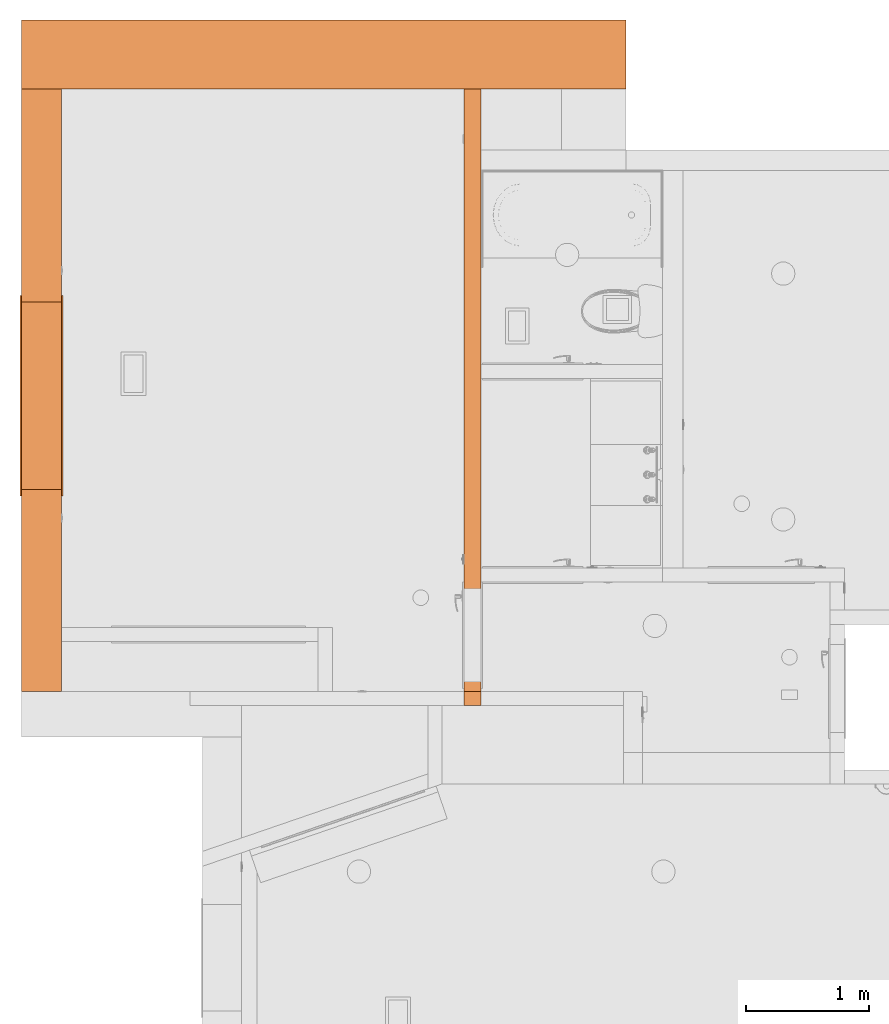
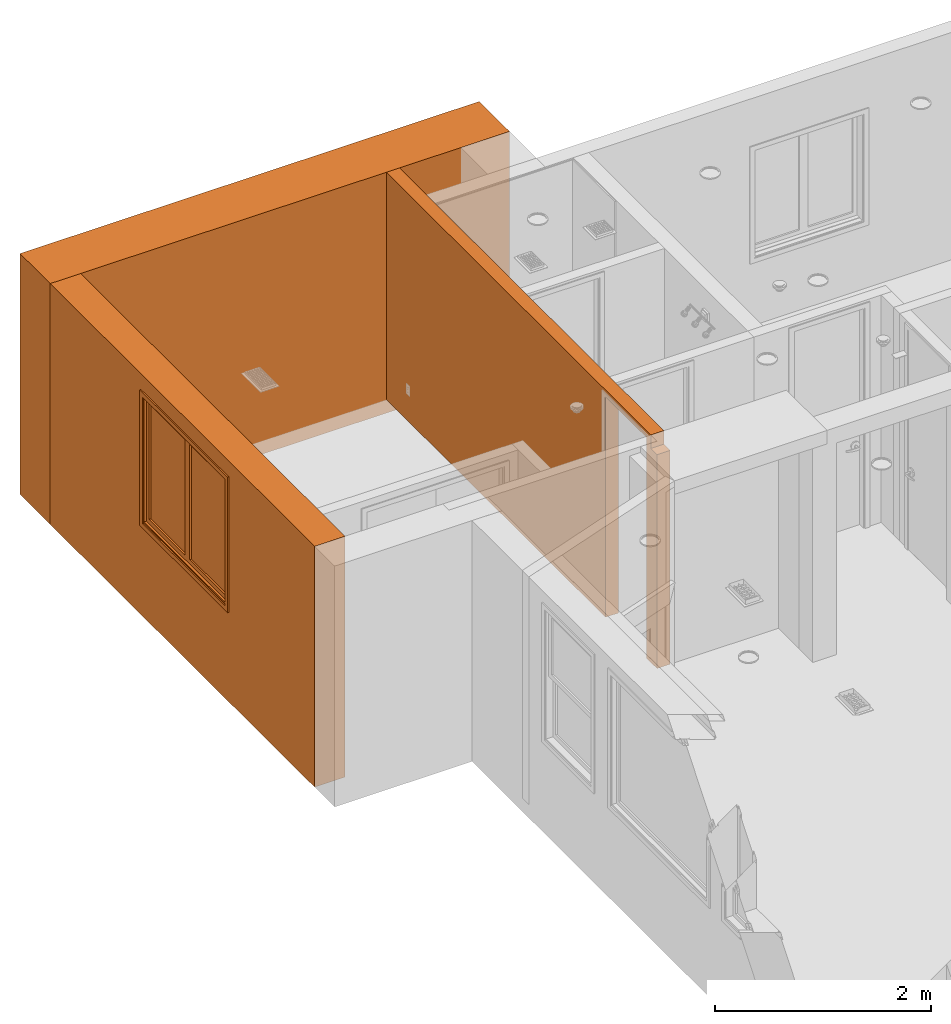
# One storey, part 44 of 48: 4 proxies.
"""IFC2X3 building model written with IfcOpenShell, lengths in inches."""

from ifc_helpers import new_model, entity, si_unit, converted_unit, derived_unit, money_unit, direction, frame, origin_with_axes, place, context, subcontext, project, spatial, faceted_brep, material, type_object, element, save


model = new_model("IFC2X3")

# Units and contexts
model_context = context("Model", 3, precision=0.00039370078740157, world=origin_with_axes(), true_north=direction((0.0, 1.0)))
plan_context = context("Plan", 3, precision=0.00039370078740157, world=origin_with_axes(), true_north=direction((0.0, 1.0)))
body_context = subcontext(model_context, "Body", "Model", "MODEL_VIEW")
ifc_project = project(units=[converted_unit("LENGTHUNIT", "INCH", entity("IfcPositiveLengthMeasure", 0.0254), si_unit("LENGTHUNIT", "METRE"), dimensions=[1, 0, 0, 0, 0, 0, 0]), converted_unit("AREAUNIT", "SQUARE_FOOT", entity("IfcPositiveLengthMeasure", 0.09290304), si_unit("AREAUNIT", "SQUARE_METRE"), dimensions=[2, 0, 0, 0, 0, 0, 0]), si_unit("PLANEANGLEUNIT", "RADIAN"), si_unit("SOLIDANGLEUNIT", "STERADIAN"), money_unit("USD"), converted_unit("TIMEUNIT", "Year", entity("IfcTimeMeasure", 31557600.0), si_unit("TIMEUNIT", "SECOND"), dimensions=[0, 0, 1, 0, 0, 0, 0]), si_unit("MASSUNIT", "GRAM", prefix="KILO"), si_unit("THERMODYNAMICTEMPERATUREUNIT", "DEGREE_CELSIUS"), si_unit("LUMINOUSINTENSITYUNIT", "LUMEN"), si_unit("ENERGYUNIT", "JOULE", prefix="MEGA"), derived_unit("SPECIFICHEATCAPACITYUNIT", [(si_unit("ENERGYUNIT", "JOULE"), 1), (si_unit("MASSUNIT", "GRAM", prefix="KILO"), -1), (si_unit("THERMODYNAMICTEMPERATUREUNIT", "KELVIN"), -1)])], contexts=[model_context, plan_context])

# Site, building, storey
site_placement = place(None, origin_with_axes())
site = spatial("IfcSite", under=ifc_project, at=site_placement, Name="Site", CompositionType="ELEMENT")
building_placement = place(site_placement, origin_with_axes())
building = spatial("IfcBuilding", under=site, at=building_placement, Name="Building", CompositionType="ELEMENT")
storey_placement = place(building_placement, origin_with_axes())
storey = spatial("IfcBuildingStorey", under=building, at=storey_placement, Name="First Floor", CompositionType="ELEMENT", Elevation=0.0)

# Proxies
building_element_proxy_type_1 = type_object("IfcBuildingElementProxyType", Name="W Double Sash", PredefinedType="NOTDEFINED")
proxy_1_placement = place(storey_placement, frame((-249.4999999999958, 451.4999999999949, 35.99999999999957), z_axis=(0.0, 0.0, 1.0), x_axis=(0.0, 1.0, 0.0)))
element("IfcBuildingElementProxy", 1, at=proxy_1_placement, inside=storey, type_object=building_element_proxy_type_1, Name="WD - 001", context=body_context, shape_type="Brep", body=[
    faceted_brep([(59.9999999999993, 8.249999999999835, 0.0), (59.9999999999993, 0.0, 0.0), (0.0, 0.0, 0.0), (0.0, 8.249999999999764, 0.0), (59.9999999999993, 8.249999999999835, 55.99999999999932), (59.9999999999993, 0.0, 55.99999999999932), (0.0, 0.0, 55.99999999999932), (59.49999999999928, 0.0, 0.4999999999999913), (0.5000000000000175, 0.0, 0.4999999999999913), (0.5000000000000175, 0.0, 55.49999999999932), (59.49999999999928, 0.0, 55.49999999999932), (0.0, 8.249999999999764, 55.99999999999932), (59.49999999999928, 8.249999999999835, 0.4999999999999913), (59.49999999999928, 8.249999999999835, 55.49999999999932), (0.5000000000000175, 8.249999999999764, 55.49999999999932), (0.5000000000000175, 8.249999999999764, 0.4999999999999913)], [[[0, 1, 2, 3]], [[4, 5, 1, 0]], [[1, 5, 6, 2], [7, 8, 9, 10]], [[3, 2, 6, 11]], [[0, 3, 11, 4], [12, 13, 14, 15]], [[11, 6, 5, 4]], [[15, 8, 7, 12]], [[14, 9, 8, 15]], [[13, 10, 9, 14]], [[12, 7, 10, 13]]]),
    faceted_brep([(61.99999999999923, -0.5000000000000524, -1.999999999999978), (59.9999999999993, -0.5000000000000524, 0.0), (59.9999999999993, 0.0, 0.0), (61.99999999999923, 0.0, -1.999999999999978), (61.99999999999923, -0.5000000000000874, 57.99999999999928), (59.9999999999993, -0.5000000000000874, 55.99999999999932), (59.9999999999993, 0.0, 55.99999999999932), (61.99999999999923, 0.0, 57.99999999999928)], [[[0, 1, 2, 3]], [[0, 4, 5, 1]], [[1, 5, 6, 2]], [[3, 2, 6, 7]], [[4, 0, 3, 7]], [[5, 4, 7, 6]]]),
    faceted_brep([(-1.99999999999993, -0.5000000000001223, 57.99999999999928), (0.0, -0.5000000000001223, 55.99999999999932), (0.0, 0.0, 55.99999999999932), (-1.99999999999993, 0.0, 57.99999999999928), (-1.99999999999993, -0.5000000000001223, -1.999999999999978), (0.0, -0.5000000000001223, 0.0), (0.0, 0.0, 0.0), (-1.99999999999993, 0.0, -1.999999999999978)], [[[0, 1, 2, 3]], [[0, 4, 5, 1]], [[1, 5, 6, 2]], [[3, 2, 6, 7]], [[4, 0, 3, 7]], [[5, 4, 7, 6]]]),
    faceted_brep([(-1.99999999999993, -0.5000000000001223, -1.999999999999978), (0.0, -0.5000000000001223, 0.0), (0.0, 0.0, 0.0), (-1.99999999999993, 0.0, -1.999999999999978), (61.99999999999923, -0.5000000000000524, -1.999999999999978), (59.9999999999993, -0.5000000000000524, 0.0), (59.9999999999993, 0.0, 0.0), (61.99999999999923, 0.0, -1.999999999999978)], [[[0, 1, 2, 3]], [[0, 4, 5, 1]], [[1, 5, 6, 2]], [[3, 2, 6, 7]], [[4, 0, 3, 7]], [[5, 4, 7, 6]]]),
    faceted_brep([(61.99999999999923, -0.5000000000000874, 57.99999999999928), (59.9999999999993, -0.5000000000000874, 55.99999999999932), (59.9999999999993, 0.0, 55.99999999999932), (61.99999999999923, 0.0, 57.99999999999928), (-1.99999999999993, -0.5000000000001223, 57.99999999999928), (0.0, -0.5000000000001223, 55.99999999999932), (0.0, 0.0, 55.99999999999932), (-1.99999999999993, 0.0, 57.99999999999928)], [[[0, 1, 2, 3]], [[0, 4, 5, 1]], [[1, 5, 6, 2]], [[3, 2, 6, 7]], [[4, 0, 3, 7]], [[5, 4, 7, 6]]]),
    faceted_brep([(61.99999999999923, 13.24999999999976, -2.249999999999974), (61.99999999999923, 12.74999999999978, -2.249999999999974), (59.9999999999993, 12.74999999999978, -0.2499999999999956), (59.9999999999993, 13.24999999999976, -0.2499999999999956), (61.99999999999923, 13.24999999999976, 57.99999999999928), (61.99999999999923, 12.74999999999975, 57.99999999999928), (59.9999999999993, 12.74999999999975, 55.99999999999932), (59.9999999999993, 13.24999999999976, 55.99999999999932)], [[[0, 1, 2, 3]], [[4, 5, 1, 0]], [[1, 5, 6, 2]], [[3, 2, 6, 7]], [[0, 3, 7, 4]], [[7, 6, 5, 4]]]),
    faceted_brep([(-1.99999999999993, 13.24999999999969, 57.99999999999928), (-1.99999999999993, 12.74999999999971, 57.99999999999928), (0.0, 12.74999999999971, 55.99999999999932), (0.0, 13.24999999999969, 55.99999999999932), (-1.99999999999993, 13.24999999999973, -2.249999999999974), (-1.99999999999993, 12.74999999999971, -2.249999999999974), (0.0, 12.74999999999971, -0.2499999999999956), (0.0, 13.24999999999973, -0.2499999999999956)], [[[0, 1, 2, 3]], [[4, 5, 1, 0]], [[1, 5, 6, 2]], [[3, 2, 6, 7]], [[0, 3, 7, 4]], [[7, 6, 5, 4]]]),
    faceted_brep([(-1.99999999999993, 13.24999999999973, -2.249999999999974), (-1.99999999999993, 12.74999999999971, -2.249999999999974), (0.0, 12.74999999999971, -0.2499999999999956), (0.0, 13.24999999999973, -0.2499999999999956), (61.99999999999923, 13.24999999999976, -2.249999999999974), (61.99999999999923, 12.74999999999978, -2.249999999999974), (59.9999999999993, 12.74999999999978, -0.2499999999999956), (59.9999999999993, 13.24999999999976, -0.2499999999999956)], [[[0, 1, 2, 3]], [[4, 5, 1, 0]], [[1, 5, 6, 2]], [[3, 2, 6, 7]], [[0, 3, 7, 4]], [[7, 6, 5, 4]]]),
    faceted_brep([(61.99999999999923, 13.24999999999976, 57.99999999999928), (61.99999999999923, 12.74999999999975, 57.99999999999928), (59.9999999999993, 12.74999999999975, 55.99999999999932), (59.9999999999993, 13.24999999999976, 55.99999999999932), (-1.99999999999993, 13.24999999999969, 57.99999999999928), (-1.99999999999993, 12.74999999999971, 57.99999999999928), (0.0, 12.74999999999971, 55.99999999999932), (0.0, 13.24999999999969, 55.99999999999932)], [[[0, 1, 2, 3]], [[4, 5, 1, 0]], [[1, 5, 6, 2]], [[3, 2, 6, 7]], [[0, 3, 7, 4]], [[7, 6, 5, 4]]]),
    faceted_brep([(59.50039370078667, 8.249999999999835, 0.7539370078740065), (59.9999999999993, 8.249999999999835, 0.7539370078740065), (59.9999999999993, 8.249999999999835, 55.4960629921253), (59.50039370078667, 8.249999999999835, 55.4960629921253), (59.50039370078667, 9.99999999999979, 0.7539370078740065), (59.74999999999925, 9.99999999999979, 0.7539370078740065), (59.74999999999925, 12.74999999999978, 0.7539370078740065), (59.9999999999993, 12.74999999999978, 0.7539370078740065), (59.9999999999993, 12.74999999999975, 55.4960629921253), (59.74999999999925, 12.74999999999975, 55.4960629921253), (59.74999999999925, 9.99999999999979, 55.4960629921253), (59.50039370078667, 9.99999999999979, 55.4960629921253)], [[[0, 1, 2, 3]], [[4, 5, 6, 7, 1, 0]], [[7, 8, 2, 1]], [[3, 2, 8, 9, 10, 11]], [[11, 4, 0, 3]], [[11, 10, 5, 4]], [[5, 10, 9, 6]], [[7, 6, 9, 8]]]),
    faceted_brep([(0.4996062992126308, 9.999999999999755, 55.4960629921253), (0.2500000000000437, 9.999999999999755, 55.49606299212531), (0.2500000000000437, 12.74999999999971, 55.4960629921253), (0.0, 12.74999999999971, 55.4960629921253), (0.0, 8.249999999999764, 55.4960629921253), (0.4996062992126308, 8.249999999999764, 55.4960629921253), (0.4996062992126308, 9.999999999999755, 0.7539370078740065), (0.2500000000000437, 9.999999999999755, 0.7539370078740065), (0.2500000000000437, 12.74999999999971, 0.7539370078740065), (0.0, 12.74999999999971, 0.7539370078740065), (0.0, 8.249999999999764, 0.7539370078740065), (0.4996062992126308, 8.249999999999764, 0.7539370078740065)], [[[0, 1, 2, 3, 4, 5]], [[6, 7, 1, 0]], [[7, 8, 2, 1]], [[3, 2, 8, 9]], [[3, 9, 10, 4]], [[5, 4, 10, 11]], [[11, 6, 0, 5]], [[11, 10, 9, 8, 7, 6]]]),
    faceted_brep([(59.50039370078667, 9.99999999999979, 0.7496062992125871), (59.50039370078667, 9.99999999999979, 0.7539370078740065), (59.74999999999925, 9.99999999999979, 0.7539370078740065), (59.74999999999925, 9.99999999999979, 0.4999999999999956), (0.2500000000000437, 9.999999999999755, 0.4999999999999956), (0.2500000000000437, 9.999999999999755, 0.7539370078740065), (0.4996062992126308, 9.999999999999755, 0.7539370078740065), (0.4996062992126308, 9.999999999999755, 0.7496062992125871), (30.00039370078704, 9.99999999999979, 0.7496062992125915), (59.50039370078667, 8.249999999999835, 0.7496062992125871), (59.50039370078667, 8.249999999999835, 0.7539370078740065), (59.9999999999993, 8.249999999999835, 0.7539370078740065), (59.9999999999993, 12.74999999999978, 0.7539370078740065), (59.74999999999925, 12.74999999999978, 0.7539370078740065), (59.74999999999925, 12.74999999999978, 0.4999999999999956), (0.2500000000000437, 12.74999999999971, 0.4999999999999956), (0.2500000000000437, 12.74999999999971, 0.7539370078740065), (0.0, 12.74999999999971, 0.7539370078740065), (0.0, 8.249999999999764, 0.7539370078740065), (0.4996062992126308, 8.249999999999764, 0.7539370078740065), (0.4996062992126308, 8.249999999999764, 0.7496062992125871), (30.00039370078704, 8.2499999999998, 0.7496062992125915), (0.0, 8.249999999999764, 0.0), (59.9999999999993, 8.249999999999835, 0.0), (59.9999999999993, 12.74999999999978, 0.0), (0.0, 12.74999999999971, 0.0)], [[[0, 1, 2, 3, 4, 5, 6, 7, 8]], [[1, 0, 9, 10]], [[10, 11, 12, 13, 2, 1]], [[14, 3, 2, 13]], [[3, 14, 15, 4]], [[5, 4, 15, 16]], [[17, 18, 19, 6, 5, 16]], [[19, 20, 7, 6]], [[9, 0, 8, 7, 20, 21]], [[9, 21, 20, 19, 18, 22, 23, 11, 10]], [[23, 24, 12, 11]], [[17, 16, 15, 14, 13, 12, 24, 25]], [[18, 17, 25, 22]], [[22, 25, 24, 23]]]),
    faceted_brep([(59.50039370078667, 8.249999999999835, 55.4960629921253), (59.9999999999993, 8.249999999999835, 55.4960629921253), (59.9999999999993, 8.249999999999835, 55.99999999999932), (0.0, 8.249999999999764, 55.99999999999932), (0.0, 8.249999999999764, 55.4960629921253), (0.4996062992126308, 8.249999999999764, 55.4960629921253), (0.4996062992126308, 8.249999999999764, 55.50039370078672), (30.00039370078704, 8.2499999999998, 55.50039370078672), (59.50039370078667, 8.249999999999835, 55.50039370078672), (59.50039370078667, 9.99999999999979, 55.4960629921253), (59.74999999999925, 9.99999999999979, 55.4960629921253), (59.74999999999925, 12.74999999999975, 55.4960629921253), (59.9999999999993, 12.74999999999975, 55.4960629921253), (59.9999999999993, 12.74999999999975, 55.99999999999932), (0.0, 12.74999999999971, 55.99999999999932), (0.0, 12.74999999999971, 55.4960629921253), (0.2500000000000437, 12.74999999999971, 55.4960629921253), (0.2500000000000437, 9.999999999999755, 55.49606299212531), (0.4996062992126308, 9.999999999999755, 55.4960629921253), (0.4996062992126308, 9.999999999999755, 55.50039370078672), (30.00039370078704, 9.999999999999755, 55.50039370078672), (59.50039370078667, 9.99999999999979, 55.50039370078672), (0.2500000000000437, 9.999999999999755, 55.74999999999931), (59.74999999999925, 9.99999999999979, 55.74999999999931), (59.74999999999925, 12.74999999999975, 55.74999999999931), (0.2500000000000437, 12.74999999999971, 55.74999999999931)], [[[0, 1, 2, 3, 4, 5, 6, 7, 8]], [[9, 10, 11, 12, 1, 0]], [[1, 12, 13, 2]], [[2, 13, 14, 3]], [[3, 14, 15, 4]], [[16, 17, 18, 5, 4, 15]], [[6, 5, 18, 19]], [[7, 6, 19, 20, 21, 8]], [[8, 21, 9, 0]], [[21, 20, 19, 18, 17, 22, 23, 10, 9]], [[10, 23, 24, 11]], [[11, 24, 25, 16, 15, 14, 13, 12]], [[22, 17, 16, 25]], [[23, 22, 25, 24]]]),
    faceted_brep([(28.24999999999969, 9.99999999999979, 2.499999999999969), (28.24999999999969, 9.999999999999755, 53.74999999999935), (28.24999999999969, 10.87499999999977, 53.74999999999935), (28.24999999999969, 10.87499999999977, 2.499999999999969), (30.24999999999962, 9.99999999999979, 2.499999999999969), (30.24999999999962, 9.999999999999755, 53.74999999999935), (30.24999999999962, 10.87499999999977, 53.74999999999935), (30.24999999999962, 10.87499999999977, 2.499999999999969)], [[[0, 1, 2, 3]], [[0, 4, 5, 1]], [[1, 5, 6, 2]], [[3, 2, 6, 7]], [[4, 0, 3, 7]], [[5, 4, 7, 6]]]),
    faceted_brep([(0.2500000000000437, 9.999999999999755, 2.499999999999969), (0.2500000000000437, 9.999999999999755, 53.74999999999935), (0.2500000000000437, 10.87499999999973, 53.74999999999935), (0.2500000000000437, 10.87499999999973, 2.499999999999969), (2.249999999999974, 9.999999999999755, 2.499999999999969), (2.249999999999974, 9.999999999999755, 53.74999999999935), (2.249999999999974, 10.87499999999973, 53.74999999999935), (2.249999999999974, 10.87499999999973, 2.499999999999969)], [[[0, 1, 2, 3]], [[0, 4, 5, 1]], [[1, 5, 6, 2]], [[3, 2, 6, 7]], [[4, 0, 3, 7]], [[5, 4, 7, 6]]]),
    faceted_brep([(0.2500000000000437, 9.999999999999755, 0.4999999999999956), (0.2500000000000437, 9.999999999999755, 2.499999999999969), (0.2500000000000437, 10.87499999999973, 2.499999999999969), (0.2500000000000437, 10.87499999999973, 0.4999999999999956), (30.24999999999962, 9.99999999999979, 0.4999999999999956), (30.24999999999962, 9.99999999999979, 2.499999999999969), (28.24999999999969, 9.99999999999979, 2.499999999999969), (16.24999999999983, 9.999999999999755, 2.499999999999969), (14.24999999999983, 9.999999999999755, 2.499999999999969), (2.249999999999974, 9.999999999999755, 2.499999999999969), (2.249999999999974, 10.87499999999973, 2.499999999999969), (14.24999999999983, 10.87499999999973, 2.499999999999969), (16.24999999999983, 10.87499999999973, 2.499999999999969), (28.24999999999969, 10.87499999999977, 2.499999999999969), (30.24999999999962, 10.87499999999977, 2.499999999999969), (30.24999999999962, 10.87499999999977, 0.4999999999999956)], [[[0, 1, 2, 3]], [[0, 4, 5, 6, 7, 8, 9, 1]], [[1, 9, 10, 2]], [[3, 2, 10, 11, 12, 13, 14, 15]], [[4, 0, 3, 15]], [[5, 4, 15, 14]], [[6, 5, 14, 13]], [[7, 6, 13, 12]], [[8, 7, 12, 11]], [[9, 8, 11, 10]]]),
    faceted_brep([(30.24999999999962, 9.999999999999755, 55.74999999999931), (30.24999999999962, 9.999999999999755, 53.74999999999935), (30.24999999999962, 10.87499999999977, 53.74999999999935), (30.24999999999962, 10.87499999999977, 55.74999999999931), (0.2500000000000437, 9.999999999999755, 55.74999999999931), (0.2500000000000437, 9.999999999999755, 53.74999999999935), (2.249999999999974, 9.999999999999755, 53.74999999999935), (14.24999999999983, 9.999999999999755, 53.74999999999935), (16.24999999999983, 9.999999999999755, 53.74999999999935), (28.24999999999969, 9.999999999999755, 53.74999999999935), (28.24999999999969, 10.87499999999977, 53.74999999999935), (16.24999999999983, 10.87499999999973, 53.74999999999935), (14.24999999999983, 10.87499999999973, 53.74999999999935), (2.249999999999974, 10.87499999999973, 53.74999999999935), (0.2500000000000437, 10.87499999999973, 53.74999999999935), (0.2500000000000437, 10.87499999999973, 55.74999999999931)], [[[0, 1, 2, 3]], [[0, 4, 5, 6, 7, 8, 9, 1]], [[1, 9, 10, 2]], [[3, 2, 10, 11, 12, 13, 14, 15]], [[4, 0, 3, 15]], [[5, 4, 15, 14]], [[6, 5, 14, 13]], [[7, 6, 13, 12]], [[8, 7, 12, 11]], [[9, 8, 11, 10]]]),
    faceted_brep([(28.24999999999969, 10.87499999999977, 2.499999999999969), (28.24999999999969, 10.87499999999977, 53.74999999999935), (28.24999999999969, 11.74999999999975, 53.74999999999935), (28.24999999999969, 11.74999999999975, 2.499999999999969), (30.24999999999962, 10.87499999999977, 2.499999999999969), (30.24999999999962, 10.87499999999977, 53.74999999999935), (30.24999999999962, 11.74999999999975, 53.74999999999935), (30.24999999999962, 11.74999999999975, 2.499999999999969)], [[[0, 1, 2, 3]], [[0, 4, 5, 1]], [[1, 5, 6, 2]], [[3, 2, 6, 7]], [[4, 0, 3, 7]], [[5, 4, 7, 6]]]),
    faceted_brep([(0.2500000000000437, 10.87499999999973, 2.499999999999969), (0.2500000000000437, 10.87499999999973, 53.74999999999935), (0.2500000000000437, 11.74999999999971, 53.74999999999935), (0.2500000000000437, 11.74999999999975, 2.499999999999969), (2.249999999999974, 10.87499999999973, 2.499999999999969), (2.249999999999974, 10.87499999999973, 53.74999999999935), (2.249999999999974, 11.74999999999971, 53.74999999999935), (2.249999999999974, 11.74999999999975, 2.499999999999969)], [[[0, 1, 2, 3]], [[0, 4, 5, 1]], [[1, 5, 6, 2]], [[3, 2, 6, 7]], [[4, 0, 3, 7]], [[5, 4, 7, 6]]]),
    faceted_brep([(0.2500000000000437, 10.87499999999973, 0.4999999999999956), (0.2500000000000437, 10.87499999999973, 2.499999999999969), (0.2500000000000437, 11.74999999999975, 2.499999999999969), (0.2500000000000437, 11.74999999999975, 0.4999999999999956), (30.24999999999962, 10.87499999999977, 0.4999999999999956), (30.24999999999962, 10.87499999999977, 2.499999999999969), (28.24999999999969, 10.87499999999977, 2.499999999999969), (16.24999999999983, 10.87499999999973, 2.499999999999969), (14.24999999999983, 10.87499999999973, 2.499999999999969), (2.249999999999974, 10.87499999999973, 2.499999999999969), (2.249999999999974, 11.74999999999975, 2.499999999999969), (14.24999999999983, 11.74999999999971, 2.499999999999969), (16.24999999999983, 11.74999999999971, 2.499999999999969), (28.24999999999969, 11.74999999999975, 2.499999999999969), (30.24999999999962, 11.74999999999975, 2.499999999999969), (30.24999999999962, 11.74999999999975, 0.4999999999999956)], [[[0, 1, 2, 3]], [[0, 4, 5, 6, 7, 8, 9, 1]], [[1, 9, 10, 2]], [[3, 2, 10, 11, 12, 13, 14, 15]], [[4, 0, 3, 15]], [[5, 4, 15, 14]], [[6, 5, 14, 13]], [[7, 6, 13, 12]], [[8, 7, 12, 11]], [[9, 8, 11, 10]]]),
    faceted_brep([(30.24999999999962, 10.87499999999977, 55.74999999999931), (30.24999999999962, 10.87499999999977, 53.74999999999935), (30.24999999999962, 11.74999999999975, 53.74999999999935), (30.24999999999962, 11.74999999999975, 55.74999999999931), (0.2500000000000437, 10.87499999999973, 55.74999999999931), (0.2500000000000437, 10.87499999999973, 53.74999999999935), (2.249999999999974, 10.87499999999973, 53.74999999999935), (14.24999999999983, 10.87499999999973, 53.74999999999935), (16.24999999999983, 10.87499999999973, 53.74999999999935), (28.24999999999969, 10.87499999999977, 53.74999999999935), (28.24999999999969, 11.74999999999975, 53.74999999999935), (16.24999999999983, 11.74999999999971, 53.74999999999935), (14.24999999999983, 11.74999999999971, 53.74999999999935), (2.249999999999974, 11.74999999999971, 53.74999999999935), (0.2500000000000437, 11.74999999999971, 53.74999999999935), (0.2500000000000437, 11.74999999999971, 55.74999999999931)], [[[0, 1, 2, 3]], [[0, 4, 5, 6, 7, 8, 9, 1]], [[1, 9, 10, 2]], [[3, 2, 10, 11, 12, 13, 14, 15]], [[4, 0, 3, 15]], [[5, 4, 15, 14]], [[6, 5, 14, 13]], [[7, 6, 13, 12]], [[8, 7, 12, 11]], [[9, 8, 11, 10]]]),
    faceted_brep([(28.24999999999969, 10.74999999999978, 2.499999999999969), (2.249999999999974, 10.74999999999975, 2.499999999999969), (2.249999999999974, 10.99999999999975, 2.499999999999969), (28.24999999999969, 10.99999999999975, 2.499999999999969), (28.24999999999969, 10.74999999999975, 53.74999999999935), (2.249999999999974, 10.74999999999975, 53.74999999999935), (2.249999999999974, 10.99999999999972, 53.74999999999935), (28.24999999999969, 10.99999999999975, 53.74999999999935)], [[[0, 1, 2, 3]], [[0, 4, 5, 1]], [[1, 5, 6, 2]], [[3, 2, 6, 7]], [[4, 0, 3, 7]], [[5, 4, 7, 6]]]),
    faceted_brep([(57.74999999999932, 9.99999999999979, 2.499999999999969), (57.74999999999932, 9.99999999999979, 53.74999999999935), (57.74999999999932, 10.8749999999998, 53.74999999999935), (57.74999999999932, 10.8749999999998, 2.499999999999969), (59.74999999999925, 9.99999999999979, 2.499999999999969), (59.74999999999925, 9.99999999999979, 53.74999999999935), (59.74999999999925, 10.8749999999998, 53.74999999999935), (59.74999999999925, 10.8749999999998, 2.499999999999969)], [[[0, 1, 2, 3]], [[0, 4, 5, 1]], [[1, 5, 6, 2]], [[3, 2, 6, 7]], [[4, 0, 3, 7]], [[5, 4, 7, 6]]]),
    faceted_brep([(29.74999999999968, 9.99999999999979, 2.499999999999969), (29.74999999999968, 9.999999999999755, 53.74999999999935), (29.74999999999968, 10.87499999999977, 53.74999999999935), (29.74999999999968, 10.87499999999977, 2.499999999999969), (31.74999999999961, 9.99999999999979, 2.499999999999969), (31.74999999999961, 9.999999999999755, 53.74999999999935), (31.74999999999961, 10.87499999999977, 53.74999999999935), (31.74999999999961, 10.87499999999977, 2.499999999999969)], [[[0, 1, 2, 3]], [[0, 4, 5, 1]], [[1, 5, 6, 2]], [[3, 2, 6, 7]], [[4, 0, 3, 7]], [[5, 4, 7, 6]]]),
    faceted_brep([(29.74999999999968, 9.99999999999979, 0.4999999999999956), (29.74999999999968, 9.99999999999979, 2.499999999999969), (29.74999999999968, 10.87499999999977, 2.499999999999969), (29.74999999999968, 10.87499999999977, 0.4999999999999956), (59.74999999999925, 9.99999999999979, 0.4999999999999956), (59.74999999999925, 9.99999999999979, 2.499999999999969), (57.74999999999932, 9.99999999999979, 2.499999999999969), (45.74999999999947, 9.999999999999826, 2.499999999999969), (43.74999999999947, 9.999999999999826, 2.499999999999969), (31.74999999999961, 9.99999999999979, 2.499999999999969), (31.74999999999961, 10.87499999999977, 2.499999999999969), (43.74999999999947, 10.8749999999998, 2.499999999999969), (45.74999999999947, 10.8749999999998, 2.499999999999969), (57.74999999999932, 10.8749999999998, 2.499999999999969), (59.74999999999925, 10.8749999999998, 2.499999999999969), (59.74999999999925, 10.8749999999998, 0.4999999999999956)], [[[0, 1, 2, 3]], [[0, 4, 5, 6, 7, 8, 9, 1]], [[1, 9, 10, 2]], [[3, 2, 10, 11, 12, 13, 14, 15]], [[4, 0, 3, 15]], [[5, 4, 15, 14]], [[6, 5, 14, 13]], [[7, 6, 13, 12]], [[8, 7, 12, 11]], [[9, 8, 11, 10]]]),
    faceted_brep([(59.74999999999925, 9.99999999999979, 55.74999999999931), (59.74999999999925, 9.99999999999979, 53.74999999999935), (59.74999999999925, 10.8749999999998, 53.74999999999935), (59.74999999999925, 10.8749999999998, 55.74999999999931), (29.74999999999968, 9.999999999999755, 55.74999999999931), (29.74999999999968, 9.999999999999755, 53.74999999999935), (31.74999999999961, 9.999999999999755, 53.74999999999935), (43.74999999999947, 9.99999999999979, 53.74999999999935), (45.74999999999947, 9.99999999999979, 53.74999999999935), (57.74999999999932, 9.99999999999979, 53.74999999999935), (57.74999999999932, 10.8749999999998, 53.74999999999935), (45.74999999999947, 10.8749999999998, 53.74999999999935), (43.74999999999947, 10.8749999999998, 53.74999999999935), (31.74999999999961, 10.87499999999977, 53.74999999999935), (29.74999999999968, 10.87499999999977, 53.74999999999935), (29.74999999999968, 10.87499999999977, 55.74999999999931)], [[[0, 1, 2, 3]], [[0, 4, 5, 6, 7, 8, 9, 1]], [[1, 9, 10, 2]], [[3, 2, 10, 11, 12, 13, 14, 15]], [[4, 0, 3, 15]], [[5, 4, 15, 14]], [[6, 5, 14, 13]], [[7, 6, 13, 12]], [[8, 7, 12, 11]], [[9, 8, 11, 10]]]),
    faceted_brep([(57.74999999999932, 10.8749999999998, 2.499999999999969), (57.74999999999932, 10.8749999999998, 53.74999999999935), (57.74999999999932, 11.74999999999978, 53.74999999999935), (57.74999999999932, 11.74999999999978, 2.499999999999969), (59.74999999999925, 10.8749999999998, 2.499999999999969), (59.74999999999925, 10.8749999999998, 53.74999999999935), (59.74999999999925, 11.74999999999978, 53.74999999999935), (59.74999999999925, 11.74999999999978, 2.499999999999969)], [[[0, 1, 2, 3]], [[0, 4, 5, 1]], [[1, 5, 6, 2]], [[3, 2, 6, 7]], [[4, 0, 3, 7]], [[5, 4, 7, 6]]]),
    faceted_brep([(29.74999999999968, 10.87499999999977, 2.499999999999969), (29.74999999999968, 10.87499999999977, 53.74999999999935), (29.74999999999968, 11.74999999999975, 53.74999999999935), (29.74999999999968, 11.74999999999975, 2.499999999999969), (31.74999999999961, 10.87499999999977, 2.499999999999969), (31.74999999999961, 10.87499999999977, 53.74999999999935), (31.74999999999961, 11.74999999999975, 53.74999999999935), (31.74999999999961, 11.74999999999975, 2.499999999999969)], [[[0, 1, 2, 3]], [[0, 4, 5, 1]], [[1, 5, 6, 2]], [[3, 2, 6, 7]], [[4, 0, 3, 7]], [[5, 4, 7, 6]]]),
    faceted_brep([(29.74999999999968, 10.87499999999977, 0.4999999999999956), (29.74999999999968, 10.87499999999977, 2.499999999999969), (29.74999999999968, 11.74999999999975, 2.499999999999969), (29.74999999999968, 11.74999999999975, 0.4999999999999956), (59.74999999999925, 10.8749999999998, 0.4999999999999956), (59.74999999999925, 10.8749999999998, 2.499999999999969), (57.74999999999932, 10.8749999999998, 2.499999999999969), (45.74999999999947, 10.8749999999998, 2.499999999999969), (43.74999999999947, 10.8749999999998, 2.499999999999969), (31.74999999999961, 10.87499999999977, 2.499999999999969), (31.74999999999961, 11.74999999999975, 2.499999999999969), (43.74999999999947, 11.74999999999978, 2.499999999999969), (45.74999999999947, 11.74999999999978, 2.499999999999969), (57.74999999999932, 11.74999999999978, 2.499999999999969), (59.74999999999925, 11.74999999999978, 2.499999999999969), (59.74999999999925, 11.74999999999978, 0.4999999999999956)], [[[0, 1, 2, 3]], [[0, 4, 5, 6, 7, 8, 9, 1]], [[1, 9, 10, 2]], [[3, 2, 10, 11, 12, 13, 14, 15]], [[4, 0, 3, 15]], [[5, 4, 15, 14]], [[6, 5, 14, 13]], [[7, 6, 13, 12]], [[8, 7, 12, 11]], [[9, 8, 11, 10]]]),
    faceted_brep([(59.74999999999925, 10.8749999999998, 55.74999999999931), (59.74999999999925, 10.8749999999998, 53.74999999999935), (59.74999999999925, 11.74999999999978, 53.74999999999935), (59.74999999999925, 11.74999999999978, 55.74999999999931), (29.74999999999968, 10.87499999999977, 55.74999999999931), (29.74999999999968, 10.87499999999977, 53.74999999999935), (31.74999999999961, 10.87499999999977, 53.74999999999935), (43.74999999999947, 10.8749999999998, 53.74999999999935), (45.74999999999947, 10.8749999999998, 53.74999999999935), (57.74999999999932, 10.8749999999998, 53.74999999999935), (57.74999999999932, 11.74999999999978, 53.74999999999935), (45.74999999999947, 11.74999999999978, 53.74999999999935), (43.74999999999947, 11.74999999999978, 53.74999999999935), (31.74999999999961, 11.74999999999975, 53.74999999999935), (29.74999999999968, 11.74999999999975, 53.74999999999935), (29.74999999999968, 11.74999999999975, 55.74999999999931)], [[[0, 1, 2, 3]], [[0, 4, 5, 6, 7, 8, 9, 1]], [[1, 9, 10, 2]], [[3, 2, 10, 11, 12, 13, 14, 15]], [[4, 0, 3, 15]], [[5, 4, 15, 14]], [[6, 5, 14, 13]], [[7, 6, 13, 12]], [[8, 7, 12, 11]], [[9, 8, 11, 10]]]),
    faceted_brep([(57.74999999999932, 10.74999999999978, 2.499999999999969), (31.74999999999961, 10.74999999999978, 2.499999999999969), (31.74999999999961, 10.99999999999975, 2.499999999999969), (57.74999999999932, 10.99999999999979, 2.499999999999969), (57.74999999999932, 10.74999999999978, 53.74999999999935), (31.74999999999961, 10.74999999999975, 53.74999999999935), (31.74999999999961, 10.99999999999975, 53.74999999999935), (57.74999999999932, 10.99999999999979, 53.74999999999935)], [[[0, 1, 2, 3]], [[0, 4, 5, 1]], [[1, 5, 6, 2]], [[3, 2, 6, 7]], [[4, 0, 3, 7]], [[5, 4, 7, 6]]]),
])
ifc_material = material(Name="Generic - Structural")
building_element_proxy_type_2 = type_object("IfcBuildingElementProxyType", Name="Generic - Structural 12 3/4\"", PredefinedType="NOTDEFINED")
proxy_2_placement = place(storey_placement, frame((-249.4999999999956, 579.4999999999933, -5.99999999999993), z_axis=(0.0, 0.0, 1.0), x_axis=(0.0, -1.0, 0.0)))
element("IfcBuildingElementProxy", 2, at=proxy_2_placement, inside=storey, type_object=building_element_proxy_type_2, material=ifc_material, Name="SW - 048", context=body_context, shape_type="Brep", body=[
    faceted_brep([(192.499999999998, -12.74999999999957, 106.9999999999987), (0.0, -12.74999999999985, 106.9999999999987), (0.0, -12.74999999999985, 0.0), (192.499999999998, -12.74999999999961, 0.0), (127.9999999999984, -12.74999999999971, 41.9999999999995), (67.99999999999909, -12.74999999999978, 41.9999999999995), (67.99999999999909, -12.74999999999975, 97.9999999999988), (127.9999999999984, -12.74999999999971, 97.9999999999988), (192.499999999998, 0.0, 106.9999999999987), (0.0, 0.0, 106.9999999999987), (0.0, 0.0, 0.0), (192.499999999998, 0.0, 0.0), (127.9999999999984, 0.0, 41.9999999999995), (67.99999999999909, 0.0, 41.9999999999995), (67.99999999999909, 0.0, 97.9999999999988), (127.9999999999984, 0.0, 97.9999999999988)], [[[0, 1, 2, 3], [4, 5, 6, 7]], [[8, 9, 1, 0]], [[10, 2, 1, 9]], [[3, 2, 10, 11]], [[11, 8, 0, 3]], [[12, 13, 5, 4]], [[13, 14, 6, 5]], [[14, 15, 7, 6]], [[15, 12, 4, 7]], [[11, 10, 9, 8], [12, 15, 14, 13]]]),
])
building_element_proxy_type_3 = type_object("IfcBuildingElementProxyType", Name="Generic - Structural 5 1/2\"", PredefinedType="NOTDEFINED")
proxy_3_placement = place(storey_placement, frame((-120.9999999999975, 386.9999999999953, 0.0), z_axis=(0.0, 0.0, 1.0), x_axis=(0.0, 1.0, 0.0)))
element("IfcBuildingElementProxy", 3, at=proxy_3_placement, inside=storey, type_object=building_element_proxy_type_3, material=ifc_material, Name="SW - 052", context=body_context, shape_type="Brep", body=[
    faceted_brep([(2.999999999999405, -5.49999999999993, 0.0), (2.999999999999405, -5.49999999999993, 97.99999999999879), (32.99999999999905, -5.499999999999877, 97.99999999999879), (32.99999999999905, -5.499999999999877, 0.0), (192.4999999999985, -5.49999999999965, 0.0), (192.4999999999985, -5.49999999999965, 100.9999999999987), (-3.650895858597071e-08, -5.49999999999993, 100.9999999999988), (-3.650895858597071e-08, -5.49999999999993, 94.99999999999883), (-4.499999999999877, -5.49999999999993, 94.99999999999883), (-4.499999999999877, -5.49999999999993, 0.0), (2.999999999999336, 0.0, 0.0), (2.999999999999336, -3.130016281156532e-07, 97.99999999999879), (32.99999999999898, -3.130015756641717e-07, 97.99999999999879), (32.99999999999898, 0.0, 0.0), (192.4999999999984, 0.0, 0.0), (192.4999999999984, 0.0, 100.9999999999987), (-3.650902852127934e-08, -3.130016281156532e-07, 100.9999999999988), (-3.650902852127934e-08, -3.130016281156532e-07, 94.99999999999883), (-4.5000003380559, -3.130016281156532e-07, 94.99999999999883), (-4.499999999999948, 0.0, 0.0)], [[[0, 1, 2, 3, 4, 5, 6, 7, 8, 9]], [[1, 0, 10, 11]], [[2, 1, 11, 12]], [[3, 2, 12, 13]], [[3, 13, 14, 4]], [[14, 15, 5, 4]], [[16, 6, 5, 15]], [[7, 6, 16, 17]], [[8, 7, 17, 18]], [[8, 18, 19, 9]], [[10, 0, 9, 19]], [[11, 10, 19, 18, 17, 16, 15, 14, 13, 12]]]),
])
building_element_proxy_type_4 = type_object("IfcBuildingElementProxyType", Name="Generic - Structural 22\"", PredefinedType="NOTDEFINED")
proxy_4_placement = place(storey_placement, frame((-89.74999767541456, 579.4999999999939, -5.99999999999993), z_axis=(0.0, 0.0, 1.0), x_axis=(-1.0, 0.0, 0.0)))
element("IfcBuildingElementProxy", 4, at=proxy_4_placement, inside=storey, type_object=building_element_proxy_type_4, material=ifc_material, Name="SW - 053", context=body_context, shape_type="Brep", body=[
    faceted_brep([(172.5000023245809, 0.0, 0.0), (172.5000023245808, -22.00000000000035, 0.0), (-20.49999999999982, -21.99999999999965, 0.0), (-20.49999999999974, 0.0, 0.0), (172.5000023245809, 0.0, 106.9999999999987), (172.5000023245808, -22.00000000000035, 106.9999999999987), (-20.49999999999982, -21.99999999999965, 106.9999999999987), (-20.49999999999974, 0.0, 106.9999999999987)], [[[0, 1, 2, 3]], [[1, 0, 4, 5]], [[1, 5, 6, 2]], [[7, 3, 2, 6]], [[4, 0, 3, 7]], [[5, 4, 7, 6]]]),
])

save(model, "model.ifc")
